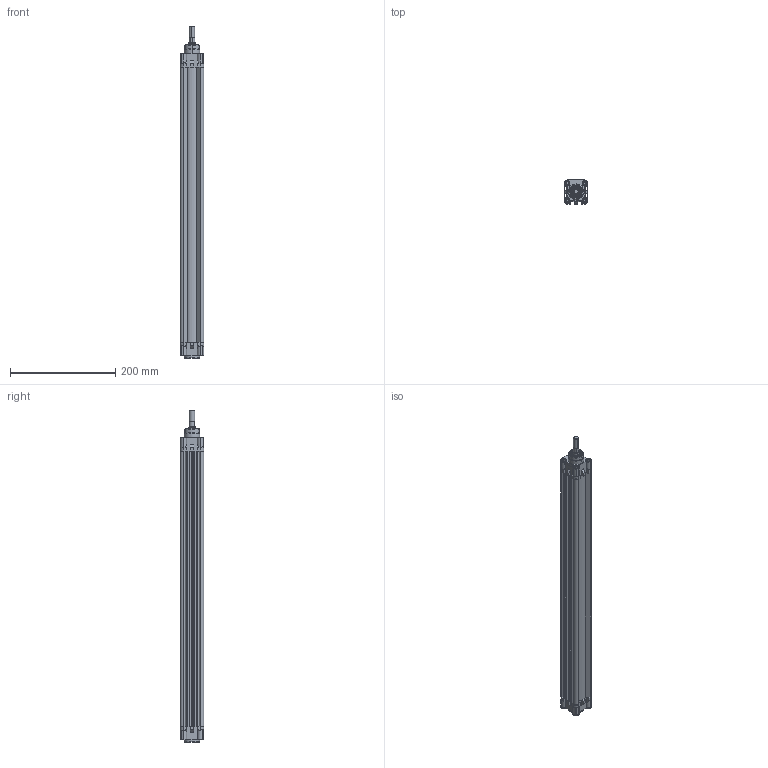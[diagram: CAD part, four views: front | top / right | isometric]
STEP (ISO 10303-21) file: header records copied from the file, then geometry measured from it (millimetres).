
FILE_DESCRIPTION (( 'STEP AP214' ), '1' );
FILE_NAME ('RIC_32_500_MY_WEB.STEP', '2020-07-18T17:21:44', ( '' ), ( '' ), 'SwSTEP 2.0', 'SolidWorks 2018', '' );
FILE_SCHEMA (( 'AUTOMOTIVE_DESIGN' ));
Length unit declared in the file: millimetre
Products named in the file (8): ric32bogazkecesi; 32önkapak; 12_K_MIL_WEB_RIC32-25; m6kapakcivatasi; ric32kecemil; RIC_32_500_MY_WEB; 32arkakapak; 32_BORU_WEB
Assembly tree (14 placements, depth 3):
  RIC_32_500_MY_WEB
    32_BORU_WEB
    32arkakapak
    32önkapak
    m6kapakcivatasi  x8
    ric32kecemil
      12_K_MIL_WEB_RIC32-25
    ric32bogazkecesi
Bounding box: 45 x 45.2 x 630.4 mm (x, y, z)
Volume: 504512.7 mm3; surface area: 271959 mm2
Topology: 13 solids, 13 shells, 783 faces, 1897 edges, 1206 vertices
Faces by surface type: plane 429, cylinder 194, cone 98, bspline 56, torus 6
Entity records: 22770 total; most frequent: CARTESIAN_POINT 6503, ORIENTED_EDGE 3010, DIRECTION 2881, EDGE_CURVE 1505, VERTEX_POINT 968, LINE 965, VECTOR 965, AXIS2_PLACEMENT_3D 958
